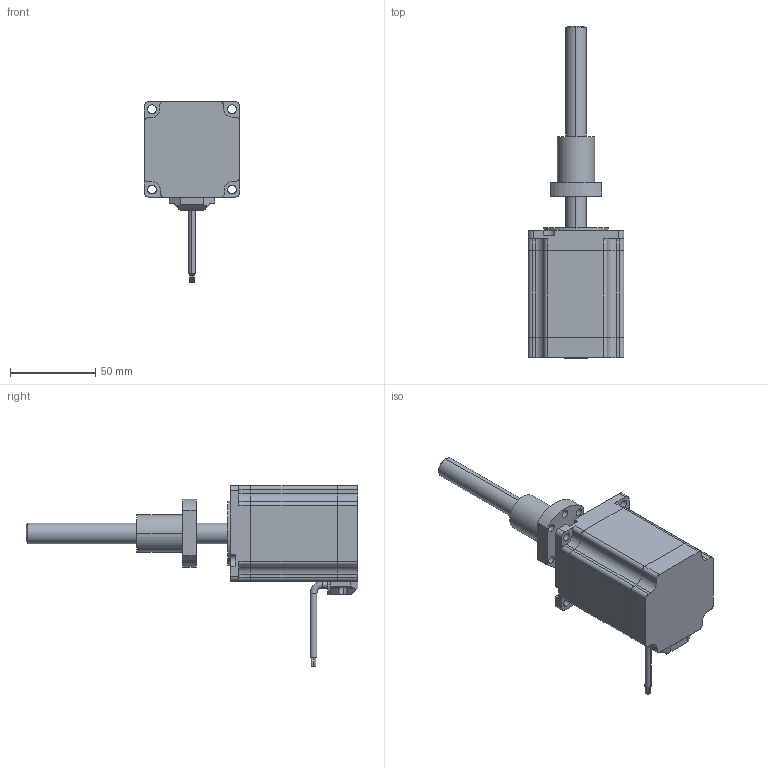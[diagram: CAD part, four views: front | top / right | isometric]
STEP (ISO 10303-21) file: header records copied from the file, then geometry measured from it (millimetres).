
FILE_DESCRIPTION (( 'STEP AP203' ), '1' );
FILE_NAME ('57E275-BS1204-4-4-120-002.STEP', '2020-07-22T08:10:50', ( '' ), ( '' ), 'SwSTEP 2.0', 'SolidWorks 2017', '' );
FILE_SCHEMA (( 'CONFIG_CONTROL_DESIGN' ));
Length unit declared in the file: millimetre
Products named in the file (1): 57E275-BS1204-4-4-120-002
Bounding box: 56.2 x 195 x 106.2 mm (x, y, z)
Volume: 245136.9 mm3; surface area: 39492.3 mm2
Topology: 4 solids, 4 shells, 216 faces, 585 edges, 387 vertices
Faces by surface type: cylinder 115, plane 97, cone 2, torus 2
Entity records: 7029 total; most frequent: CARTESIAN_POINT 1279, DIRECTION 1226, ORIENTED_EDGE 1170, EDGE_CURVE 585, AXIS2_PLACEMENT_3D 442, VERTEX_POINT 387, LINE 342, VECTOR 342
